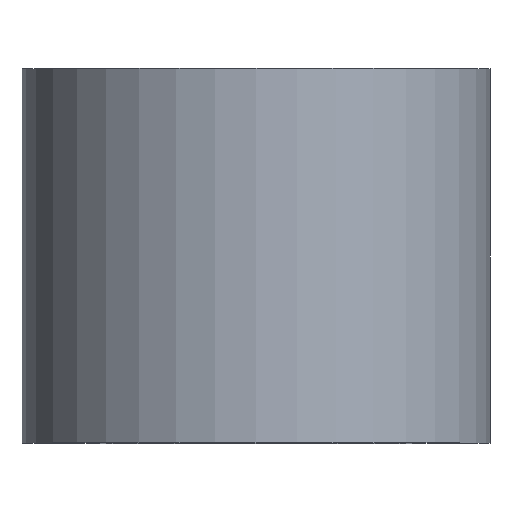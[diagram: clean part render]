
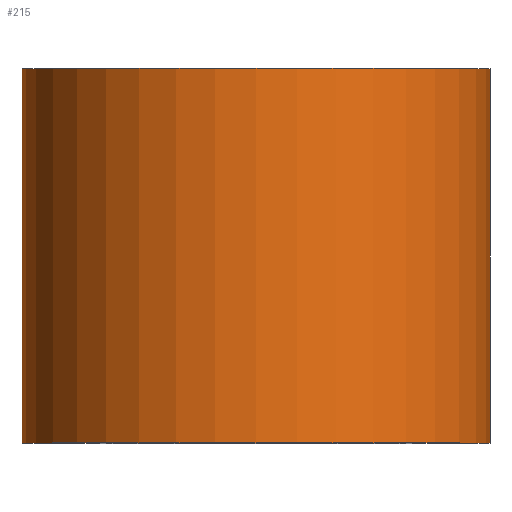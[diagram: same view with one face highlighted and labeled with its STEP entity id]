
A CAD part, top view. The second image highlights one B-rep face of the part: STEP entity #215.
In plain terms, the highlighted cylindrical face has radius 7.5 mm (diameter 15 mm), a partial arc.
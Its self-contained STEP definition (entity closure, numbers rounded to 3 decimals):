
#6 = AXIS2_PLACEMENT_3D ( 'NONE', #165, #189, #17 ) ;
#17 = DIRECTION ( 'NONE',  ( -1., 0., 0. ) ) ;
#59 = DIRECTION ( 'NONE',  ( -1., 0., 0. ) ) ;
#88 = LINE ( 'NONE', #205, #218 ) ;
#89 = DIRECTION ( 'NONE',  ( -1., 0., 0. ) ) ;
#90 = CARTESIAN_POINT ( 'NONE',  ( 0., 0., 0. ) ) ;
#102 = CYLINDRICAL_SURFACE ( 'NONE', #244, 7.5 ) ;
#103 = ORIENTED_EDGE ( 'NONE', *, *, #251, .F. ) ;
#117 = DIRECTION ( 'NONE',  ( 0., 1., 0. ) ) ;
#123 = VERTEX_POINT ( 'NONE', #178 ) ;
#125 = ORIENTED_EDGE ( 'NONE', *, *, #134, .T. ) ;
#129 = LINE ( 'NONE', #225, #265 ) ;
#133 = CARTESIAN_POINT ( 'NONE',  ( -7.5, 12., 0. ) ) ;
#134 = EDGE_CURVE ( 'NONE', #158, #300, #129, .T. ) ;
#139 = CARTESIAN_POINT ( 'NONE',  ( 7.5, 0., 0. ) ) ;
#154 = VERTEX_POINT ( 'NONE', #133 ) ;
#158 = VERTEX_POINT ( 'NONE', #139 ) ;
#165 = CARTESIAN_POINT ( 'NONE',  ( 0., 12., 0. ) ) ;
#166 = CARTESIAN_POINT ( 'NONE',  ( 0., 0., 0. ) ) ;
#168 = CARTESIAN_POINT ( 'NONE',  ( 7.5, 12., 0. ) ) ;
#178 = CARTESIAN_POINT ( 'NONE',  ( -7.5, 0., 0. ) ) ;
#189 = DIRECTION ( 'NONE',  ( 0., 1., 0. ) ) ;
#200 = ORIENTED_EDGE ( 'NONE', *, *, #283, .F. ) ;
#205 = CARTESIAN_POINT ( 'NONE',  ( -7.5, 0., 0. ) ) ;
#207 = DIRECTION ( 'NONE',  ( 0., 1., 0. ) ) ;
#215 = ADVANCED_FACE ( 'NONE', ( #216 ), #102, .T. ) ;
#216 = FACE_OUTER_BOUND ( 'NONE', #246, .T. ) ;
#217 = EDGE_CURVE ( 'NONE', #123, #158, #274, .T. ) ;
#218 = VECTOR ( 'NONE', #207, 1000. ) ;
#225 = CARTESIAN_POINT ( 'NONE',  ( 7.5, 0., 0. ) ) ;
#244 = AXIS2_PLACEMENT_3D ( 'NONE', #166, #290, #59 ) ;
#246 = EDGE_LOOP ( 'NONE', ( #270, #125, #103, #200 ) ) ;
#251 = EDGE_CURVE ( 'NONE', #154, #300, #268, .T. ) ;
#265 = VECTOR ( 'NONE', #269, 1000. ) ;
#268 = CIRCLE ( 'NONE', #6, 7.5 ) ;
#269 = DIRECTION ( 'NONE',  ( 0., 1., 0. ) ) ;
#270 = ORIENTED_EDGE ( 'NONE', *, *, #217, .T. ) ;
#274 = CIRCLE ( 'NONE', #291, 7.5 ) ;
#283 = EDGE_CURVE ( 'NONE', #123, #154, #88, .T. ) ;
#290 = DIRECTION ( 'NONE',  ( 0., 1., 0. ) ) ;
#291 = AXIS2_PLACEMENT_3D ( 'NONE', #90, #117, #89 ) ;
#300 = VERTEX_POINT ( 'NONE', #168 ) ;
